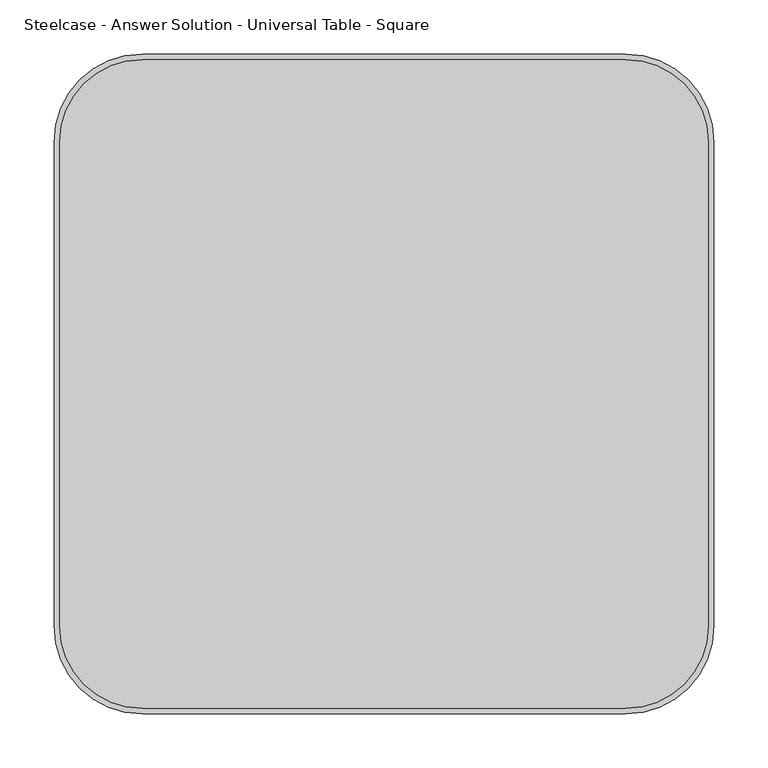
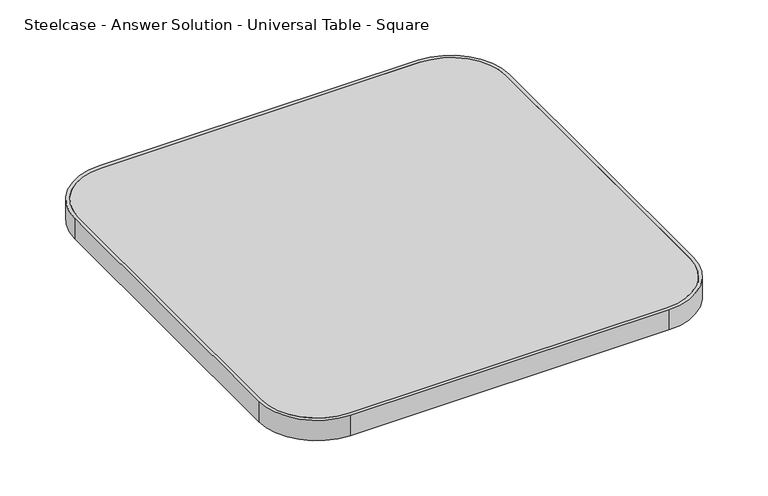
"""IFC4 building model written with IfcOpenShell, lengths in millimetres: furniture geometry, Steelcase - Answer Solution - Universal Table - Square : 24D x 24W."""

from ifc_helpers import new_model, si_unit, point, frame, frame_2d, origin, place, context, project, spatial, polyline, circle_curve, trimmed, segment, composite_curve, outline, extrude, source, transform, mapped, element, save


def steelcase_answer_solution_universal_table_square_1e0596e6(model_context):
    return source(origin(), model_context, "Body", "SweptSolid", [
        extrude(outline(composite_curve([segment(polyline([(5.08, -528.32), (5.08, -81.28)]), True, "CONTINUOUS"), segment(trimmed(circle_curve(frame_2d((81.28, -81.28)), 76.2), [point((5.08, -81.28))], [point((81.28, -5.08))], False, "CARTESIAN"), True, "CONTINUOUS"), segment(polyline([(81.28, -5.08), (528.32, -5.08)]), True, "CONTINUOUS"), segment(trimmed(circle_curve(frame_2d((528.32, -81.28)), 76.2), [point((528.32, -5.08))], [point((604.52, -81.28))], False, "CARTESIAN"), True, "CONTINUOUS"), segment(polyline([(604.52, -81.28), (604.52, -528.32)]), True, "CONTINUOUS"), segment(trimmed(circle_curve(frame_2d((528.32, -528.32)), 76.2), [point((604.52, -528.32))], [point((528.32, -604.52))], False, "CARTESIAN"), True, "CONTINUOUS"), segment(polyline([(528.32, -604.52), (81.28, -604.52)]), True, "CONTINUOUS"), segment(trimmed(circle_curve(frame_2d((81.28, -528.32)), 76.2), [point((81.28, -604.52))], [point((5.08, -528.32))], False, "CARTESIAN"), True, "CONTINUOUS")], self_intersect=False)), frame((0.0, 0.0, 668.274), z_axis=(0.0, 0.0, 1.0), x_axis=(1.0, 0.0, 0.0)), (0.0, 0.0, 1.0), 30.0990349),
        extrude(outline(composite_curve([segment(polyline([(81.28, 0.0), (528.32, 0.0)]), True, "CONTINUOUS"), segment(trimmed(circle_curve(frame_2d((528.32, -81.28)), 81.28), [point((528.32, 0.0))], [point((609.6, -81.28))], False, "CARTESIAN"), True, "CONTINUOUS"), segment(polyline([(609.6, -81.28), (609.6, -528.32)]), True, "CONTINUOUS"), segment(trimmed(circle_curve(frame_2d((528.32, -528.32)), 81.28), [point((609.6, -528.32))], [point((528.32, -609.6))], False, "CARTESIAN"), True, "CONTINUOUS"), segment(polyline([(528.32, -609.6), (81.28, -609.6)]), True, "CONTINUOUS"), segment(trimmed(circle_curve(frame_2d((81.28, -528.32)), 81.28), [point((81.28, -609.6))], [point((0.0, -528.32))], False, "CARTESIAN"), True, "CONTINUOUS"), segment(polyline([(0.0, -528.32), (0.0, -81.28)]), True, "CONTINUOUS"), segment(trimmed(circle_curve(frame_2d((81.28, -81.28)), 81.28), [point((0.0, -81.28))], [point((81.28, 0.0))], False, "CARTESIAN"), True, "CONTINUOUS")], self_intersect=False), holes=[composite_curve([segment(trimmed(circle_curve(frame_2d((81.28, -81.28)), 76.2), [point((81.28, -5.08))], [point((5.08, -81.28))], True, "CARTESIAN"), True, "CONTINUOUS"), segment(polyline([(5.08, -81.28), (5.08, -528.32)]), True, "CONTINUOUS"), segment(trimmed(circle_curve(frame_2d((81.28, -528.32)), 76.2), [point((5.08, -528.32))], [point((81.28, -604.52))], True, "CARTESIAN"), True, "CONTINUOUS"), segment(polyline([(81.28, -604.52), (528.32, -604.52)]), True, "CONTINUOUS"), segment(trimmed(circle_curve(frame_2d((528.32, -528.32)), 76.2), [point((528.32, -604.52))], [point((604.52, -528.32))], True, "CARTESIAN"), True, "CONTINUOUS"), segment(polyline([(604.52, -528.32), (604.52, -81.28)]), True, "CONTINUOUS"), segment(trimmed(circle_curve(frame_2d((528.32, -81.28)), 76.2), [point((604.52, -81.28))], [point((528.32, -5.08))], True, "CARTESIAN"), True, "CONTINUOUS"), segment(polyline([(528.32, -5.08), (81.28, -5.08)]), True, "CONTINUOUS")], self_intersect=False)]), frame((0.0, 0.0, 668.274), z_axis=(0.0, 0.0, 1.0), x_axis=(1.0, 0.0, 0.0)), (0.0, 0.0, 1.0), 30.0990349),
    ])


if __name__ == "__main__":
    model = new_model("IFC4")
    model_context = context("Model", 3, world=origin())
    ifc_project = project(units=[si_unit("LENGTHUNIT", "METRE", prefix="MILLI")], contexts=[model_context])
    site = spatial("IfcSite", under=ifc_project)
    building = spatial("IfcBuilding", under=site)
    placement = place(None, origin())
    steelcase_answer_solution_universal_table_square_shape = steelcase_answer_solution_universal_table_square_1e0596e6(model_context)
    element("IfcFurniture", 1, ObjectType="Steelcase - Answer Solution - Universal Table - Square : 24D x 24W", at=placement, inside=building, context=model_context, shape_type="MappedRepresentation", body=[
        mapped(steelcase_answer_solution_universal_table_square_shape, transform((0.0, 0.0, 0.0), x_axis=(1.0, 0.0, 0.0), y_axis=(0.0, 1.0, 0.0), z_axis=(0.0, 0.0, 1.0))),
    ])
    save(model, "model.ifc")
